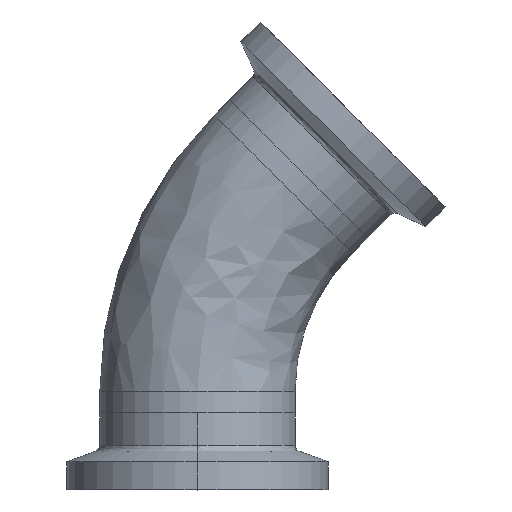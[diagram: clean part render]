
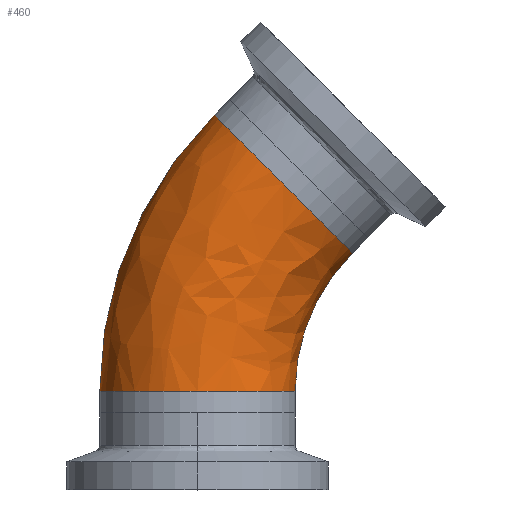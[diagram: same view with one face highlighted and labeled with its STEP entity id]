
A CAD part, top view. The second image highlights one B-rep face of the part: STEP entity #460.
In plain terms, the highlighted free-form (B-spline) face has degree [3, 3] with [4, 4] control points.
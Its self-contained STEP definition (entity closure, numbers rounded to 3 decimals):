
#116 = CARTESIAN_POINT ( 'NONE',  ( -12.7, 2.818, 0. ) ) ;
#167 = CIRCLE ( 'NONE', #1492, 12.7 ) ;
#193 = CARTESIAN_POINT ( 'NONE',  ( 20.139, 20.779, 0. ) ) ;
#199 = CARTESIAN_POINT ( 'NONE',  ( 15.312, 15.952, 0. ) ) ;
#216 = CARTESIAN_POINT ( 'NONE',  ( 12.7, 9.645, 0. ) ) ;
#222 = CARTESIAN_POINT ( 'NONE',  ( 12.7, 2.818, 0. ) ) ;
#226 = CARTESIAN_POINT ( 'NONE',  ( 20.139, 20.779, 25.4 ) ) ;
#230 = DIRECTION ( 'NONE',  ( -1., 0., 0. ) ) ;
#231 = CARTESIAN_POINT ( 'NONE',  ( 15.312, 15.952, 25.4 ) ) ;
#235 = CARTESIAN_POINT ( 'NONE',  ( 12.7, 9.645, 25.4 ) ) ;
#236 = EDGE_LOOP ( 'NONE', ( #1986, #466, #256, #1856 ) ) ;
#238 = DIRECTION ( 'NONE',  ( 0., 0., -1. ) ) ;
#239 = CARTESIAN_POINT ( 'NONE',  ( 12.7, 2.818, 25.4 ) ) ;
#245 = CARTESIAN_POINT ( 'NONE',  ( 2.179, 38.739, 25.4 ) ) ;
#250 = CARTESIAN_POINT ( 'NONE',  ( 2.179, 38.739, 0. ) ) ;
#251 =( BOUNDED_SURFACE ( )  B_SPLINE_SURFACE ( 3, 3, ( 
 ( #274, #285, #431, #250 ),
 ( #941, #1681, #1038, #245 ),
 ( #239, #235, #231, #226 ),
 ( #222, #216, #199, #193 ) ),
 .UNSPECIFIED., .F., .F., .F. ) 
 B_SPLINE_SURFACE_WITH_KNOTS ( ( 4, 4 ),
 ( 4, 4 ),
 ( 0., 1. ),
 ( 0., 1. ),
 .UNSPECIFIED. ) 
 GEOMETRIC_REPRESENTATION_ITEM ( )  RATIONAL_B_SPLINE_SURFACE ( (
 ( 1., 0.949, 0.949, 1.),
 ( 0.333, 0.316, 0.316, 0.333),
 ( 0.333, 0.316, 0.316, 0.333),
 ( 1., 0.949, 0.949, 1.) ) ) 
 REPRESENTATION_ITEM ( '' )  SURFACE ( )  );
#254 = EDGE_CURVE ( 'NONE', #471, #774, #677, .T. ) ;
#256 = ORIENTED_EDGE ( 'NONE', *, *, #1104, .T. ) ;
#274 = CARTESIAN_POINT ( 'NONE',  ( -12.7, 2.818, 0. ) ) ;
#285 = CARTESIAN_POINT ( 'NONE',  ( -12.7, 16.472, 0. ) ) ;
#348 = CARTESIAN_POINT ( 'NONE',  ( 38.1, 2.818, 0. ) ) ;
#425 = CIRCLE ( 'NONE', #1034, 25.4 ) ;
#431 = CARTESIAN_POINT ( 'NONE',  ( -7.475, 29.085, 0. ) ) ;
#460 = ADVANCED_FACE ( 'NONE', ( #730 ), #251, .T. ) ;
#466 = ORIENTED_EDGE ( 'NONE', *, *, #1587, .T. ) ;
#471 = VERTEX_POINT ( 'NONE', #116 ) ;
#495 = CARTESIAN_POINT ( 'NONE',  ( 20.139, 20.779, 0. ) ) ;
#657 = VERTEX_POINT ( 'NONE', #495 ) ;
#660 = CIRCLE ( 'NONE', #1064, 12.7 ) ;
#677 = CIRCLE ( 'NONE', #2005, 50.8 ) ;
#730 = FACE_OUTER_BOUND ( 'NONE', #236, .T. ) ;
#774 = VERTEX_POINT ( 'NONE', #1251 ) ;
#900 = CARTESIAN_POINT ( 'NONE',  ( 38.1, 2.818, 0. ) ) ;
#941 = CARTESIAN_POINT ( 'NONE',  ( -12.7, 2.818, 25.4 ) ) ;
#1034 = AXIS2_PLACEMENT_3D ( 'NONE', #900, #1314, #1156 ) ;
#1038 = CARTESIAN_POINT ( 'NONE',  ( -7.475, 29.085, 25.4 ) ) ;
#1064 = AXIS2_PLACEMENT_3D ( 'NONE', #1297, #1303, #1310 ) ;
#1104 = EDGE_CURVE ( 'NONE', #657, #774, #660, .T. ) ;
#1113 = EDGE_CURVE ( 'NONE', #471, #1418, #167, .T. ) ;
#1156 = DIRECTION ( 'NONE',  ( -1., 0., 0. ) ) ;
#1181 = CARTESIAN_POINT ( 'NONE',  ( 12.7, 2.818, 0. ) ) ;
#1251 = CARTESIAN_POINT ( 'NONE',  ( 2.179, 38.739, 0. ) ) ;
#1297 = CARTESIAN_POINT ( 'NONE',  ( 11.159, 29.759, 0. ) ) ;
#1303 = DIRECTION ( 'NONE',  ( -0.707, -0.707, 0. ) ) ;
#1310 = DIRECTION ( 'NONE',  ( -0.707, 0.707, 0. ) ) ;
#1314 = DIRECTION ( 'NONE',  ( 0., 0., -1. ) ) ;
#1418 = VERTEX_POINT ( 'NONE', #1181 ) ;
#1420 = CARTESIAN_POINT ( 'NONE',  ( 0., 2.818, 0. ) ) ;
#1426 = DIRECTION ( 'NONE',  ( 0., 1., 0. ) ) ;
#1438 = DIRECTION ( 'NONE',  ( -1., 0., 0. ) ) ;
#1492 = AXIS2_PLACEMENT_3D ( 'NONE', #1420, #1426, #1438 ) ;
#1587 = EDGE_CURVE ( 'NONE', #1418, #657, #425, .T. ) ;
#1681 = CARTESIAN_POINT ( 'NONE',  ( -12.7, 16.472, 25.4 ) ) ;
#1856 = ORIENTED_EDGE ( 'NONE', *, *, #254, .F. ) ;
#1986 = ORIENTED_EDGE ( 'NONE', *, *, #1113, .T. ) ;
#2005 = AXIS2_PLACEMENT_3D ( 'NONE', #348, #238, #230 ) ;
